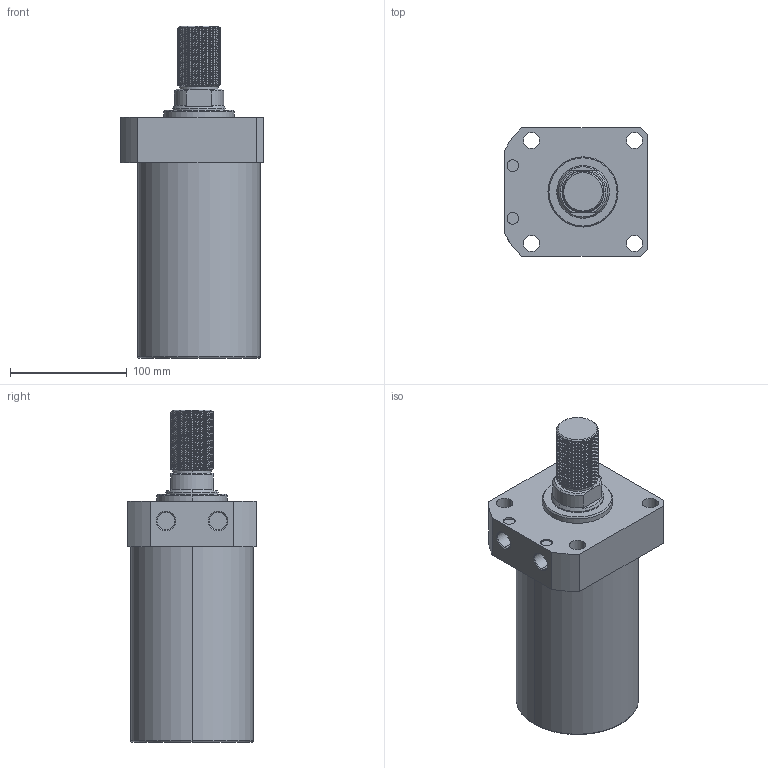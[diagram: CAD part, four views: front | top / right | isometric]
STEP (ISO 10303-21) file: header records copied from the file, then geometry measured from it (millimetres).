
FILE_DESCRIPTION (( 'STEP AP214' ), '1' );
FILE_NAME ('CLLR-105CT-120.STEP', '2020-01-10T05:55:39', ( 'Windows' ), ( 'Microsoft' ), 'SwSTEP 2.0', 'SolidWorks 2015', '' );
FILE_SCHEMA (( 'AUTOMOTIVE_DESIGN' ));
Length unit declared in the file: millimetre
Products named in the file (1): CLLR-105CT-120
Bounding box: 122 x 110 x 284 mm (x, y, z)
Volume: 2019051.6 mm3; surface area: 118752.7 mm2
Topology: 1 solids, 1 shells, 135 faces, 361 edges, 236 vertices
Faces by surface type: cylinder 96, plane 20, cone 15, torus 2, bspline 2
Entity records: 8161 total; most frequent: CARTESIAN_POINT 5057, ORIENTED_EDGE 722, DIRECTION 560, EDGE_CURVE 361, VERTEX_POINT 236, AXIS2_PLACEMENT_3D 214, EDGE_LOOP 151, FACE_OUTER_BOUND 135
